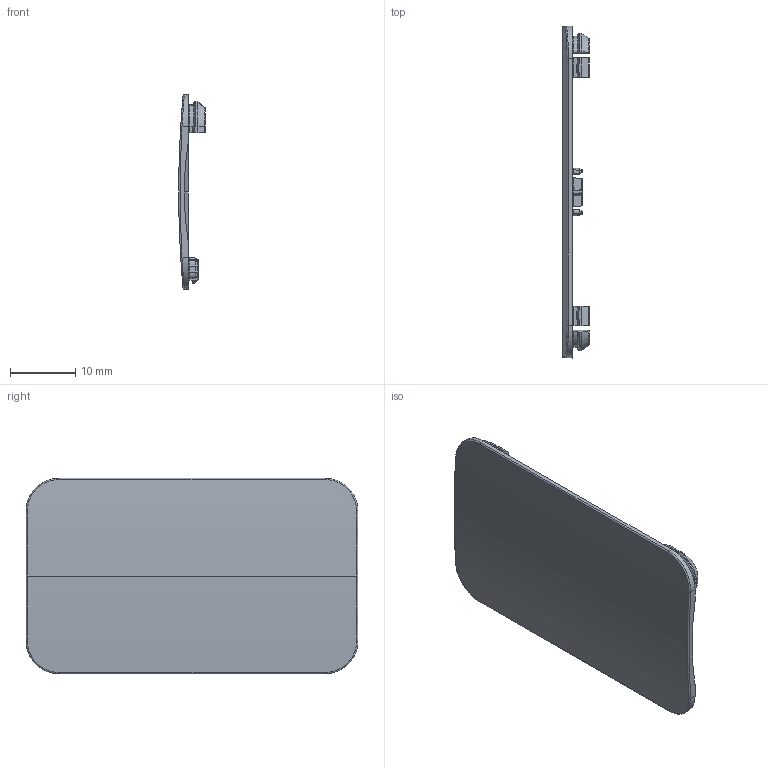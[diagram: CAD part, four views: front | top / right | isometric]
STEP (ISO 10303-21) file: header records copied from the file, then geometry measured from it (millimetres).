
FILE_DESCRIPTION (( 'STEP AP203' ), '1' );
FILE_NAME ('StrongMax krytka pro tisk_363034 a 363036_3D.STEP', '2020-10-14T08:13:43', ( '' ), ( '' ), 'SwSTEP 2.0', 'SolidWorks 2019', '' );
FILE_SCHEMA (( 'CONFIG_CONTROL_DESIGN' ));
Length unit declared in the file: millimetre
Products named in the file (1): StrongMax krytka pro tisk_363034 a 363036_3D
Bounding box: 4.1 x 51 x 30 mm (x, y, z)
Volume: 1956.7 mm3; surface area: 3287.4 mm2
Topology: 1 solids, 1 shells, 238 faces, 576 edges, 348 vertices
Faces by surface type: cylinder 80, plane 70, cone 32, torus 32, bspline 24
Entity records: 7750 total; most frequent: CARTESIAN_POINT 2244, DIRECTION 1154, ORIENTED_EDGE 1152, EDGE_CURVE 576, AXIS2_PLACEMENT_3D 436, VERTEX_POINT 348, VECTOR 282, LINE 282
